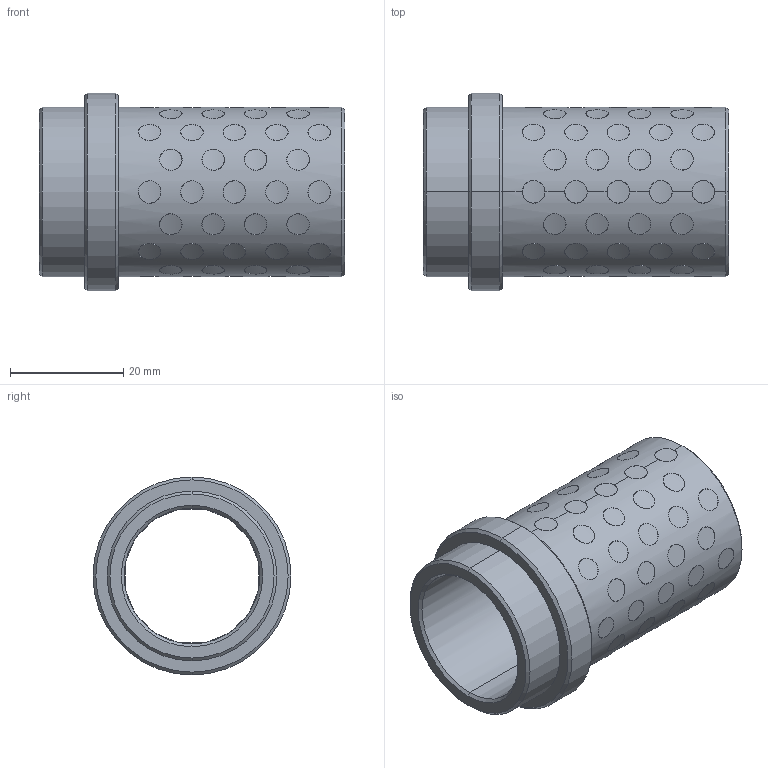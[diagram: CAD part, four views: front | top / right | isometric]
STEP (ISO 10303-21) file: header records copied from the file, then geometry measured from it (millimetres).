
FILE_DESCRIPTION((''),'2;1');
FILE_NAME('G31224046','2017-12-30T',('MANU'),(''),'PRO/ENGINEER BY PARAMETRIC TECHNOLOGY CORPORATION, 2012130','PRO/ENGINEER BY PARAMETRIC TECHNOLOGY CORPORATION, 2012130','');
FILE_SCHEMA(('CONFIG_CONTROL_DESIGN'));
Length unit declared in the file: millimetre
Products named in the file (1): G31224046
Bounding box: 54 x 35 x 35 mm (x, y, z)
Volume: 15135.4 mm3; surface area: 15489.7 mm2
Topology: 73 solids, 73 shells, 456 faces, 972 edges, 644 vertices
Faces by surface type: cylinder 440, cone 12, plane 4
Entity records: 21214 total; most frequent: CARTESIAN_POINT 12304, ORIENTED_EDGE 1944, DIRECTION 1296, EDGE_CURVE 972, VERTEX_POINT 644, B_SPLINE_CURVE_WITH_KNOTS 616, EDGE_LOOP 584, AXIS2_PLACEMENT_3D 484
